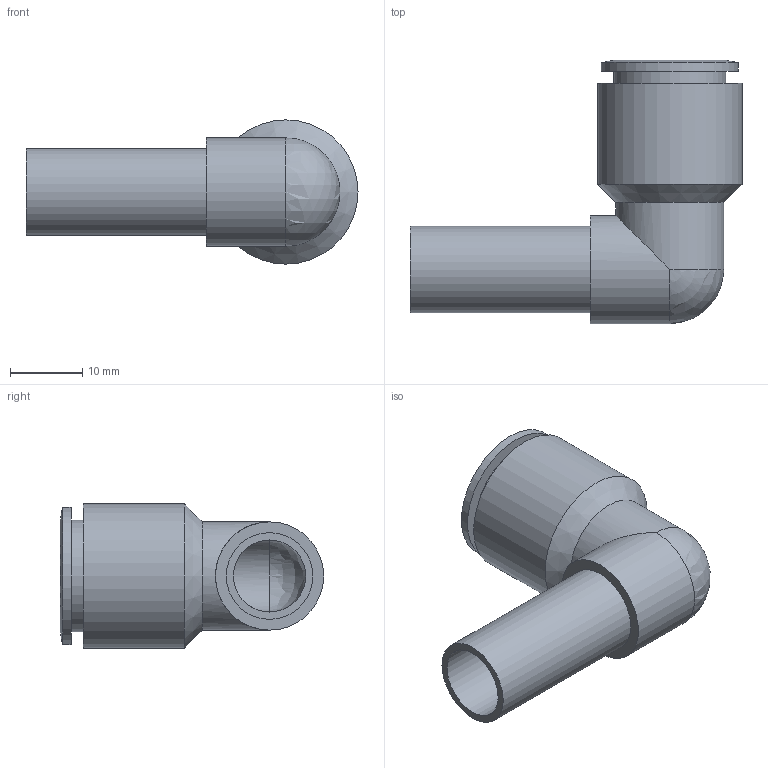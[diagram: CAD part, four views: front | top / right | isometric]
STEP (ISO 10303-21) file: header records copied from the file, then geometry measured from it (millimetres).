
FILE_DESCRIPTION((''),'2;1');
FILE_NAME('C:\Documents and Settings\rivolro1\Documenti\copia di Raccordi\PLASTICA\T04XXL0\T0412L0.stp','2007-10-30T15:46:05',('Rivolro1'),(''),'Autodesk Inventor 2008','Autodesk Inventor 2008','');
FILE_SCHEMA(('AUTOMOTIVE_DESIGN { 1 0 10303 214 1 1 1 1 }'));
Length unit declared in the file: millimetre
Products named in the file (1): T0412L0
Bounding box: 46 x 36.5 x 20 mm (x, y, z)
Volume: 6039.4 mm3; surface area: 5785.8 mm2
Topology: 1 solids, 1 shells, 20 faces, 41 edges, 23 vertices
Faces by surface type: cylinder 8, plane 6, bspline 3, cone 2, sphere 1
Full cylindrical faces by diameter (mm): 10 x1, 10.3 x1, 12 x1, 15 x2, 15.5 x1, 19 x1, 20 x1
Entity records: 571 total; most frequent: CARTESIAN_POINT 175, DIRECTION 80, ORIENTED_EDGE 48, AXIS2_PLACEMENT_3D 39, EDGE_LOOP 37, EDGE_CURVE 24, VERTEX_POINT 21, CIRCLE 20
